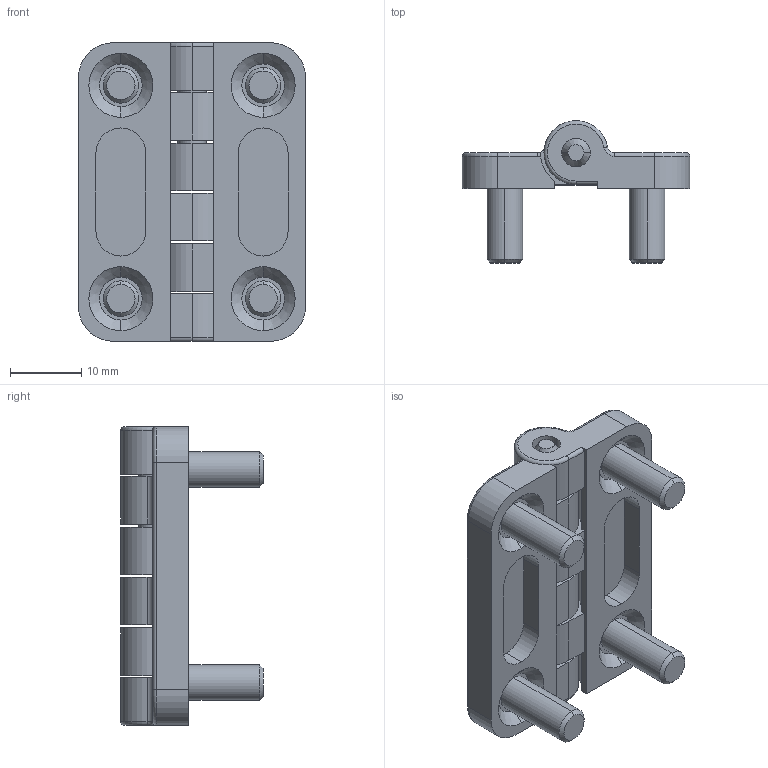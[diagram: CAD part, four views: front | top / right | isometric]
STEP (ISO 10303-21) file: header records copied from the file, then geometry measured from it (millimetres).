
FILE_DESCRIPTION (( 'STEP AP203' ), '1' );
FILE_NAME ('XG02-036-1.STEP', '2023-12-07T07:24:57', ( '' ), ( '' ), 'SwSTEP 2.0', 'SolidWorks 2020', '' );
FILE_SCHEMA (( 'CONFIG_CONTROL_DESIGN' ));
Length unit declared in the file: millimetre
Products named in the file (3): CL209-1C-ҶƬ; CL209-1C-粣; XG02-036-1
Assembly tree (3 placements, depth 2):
  XG02-036-1
    CL209-1C-粣
    CL209-1C-ҶƬ  x2
Bounding box: 32 x 20 x 42 mm (x, y, z)
Volume: 7266.2 mm3; surface area: 6268.1 mm2
Topology: 3 solids, 3 shells, 142 faces, 350 edges, 224 vertices
Faces by surface type: cylinder 68, plane 44, cone 20, torus 10
Entity records: 2575 total; most frequent: DIRECTION 438, CARTESIAN_POINT 385, ORIENTED_EDGE 364, EDGE_CURVE 182, AXIS2_PLACEMENT_3D 177, VERTEX_POINT 116, CIRCLE 96, EDGE_LOOP 86
